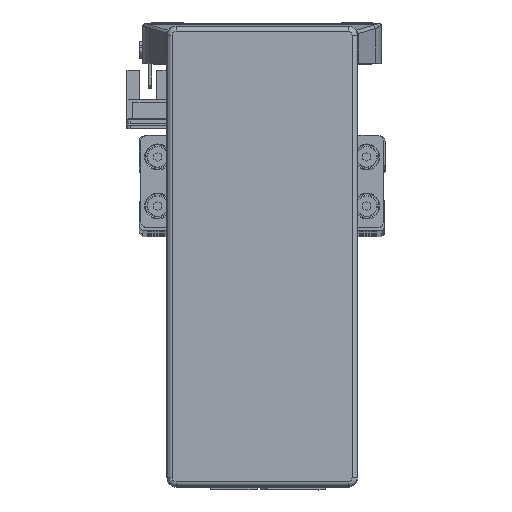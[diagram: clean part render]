
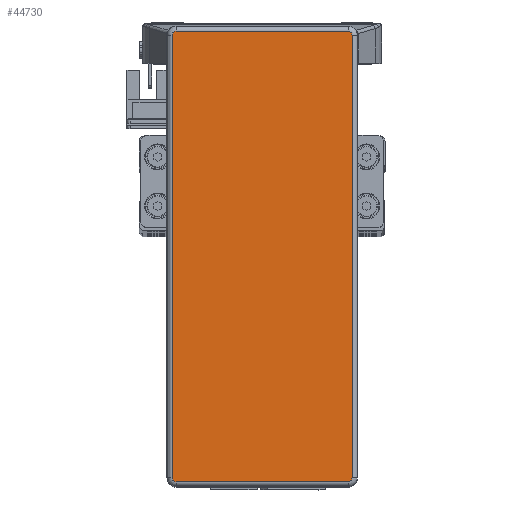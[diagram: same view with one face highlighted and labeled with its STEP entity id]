
A CAD part, top view. The second image highlights one B-rep face of the part: STEP entity #44730.
In plain terms, the highlighted planar face has unit normal (0, 0, 1) as drawn and (0, 0, -1) by its records, which use the part's own axes.
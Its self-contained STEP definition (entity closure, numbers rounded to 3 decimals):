
#449 = VERTEX_POINT ( 'NONE', #28153 ) ;
#459 = VERTEX_POINT ( 'NONE', #28259 ) ;
#461 = VERTEX_POINT ( 'NONE', #28247 ) ;
#474 = VERTEX_POINT ( 'NONE', #28261 ) ;
#476 = VERTEX_POINT ( 'NONE', #28263 ) ;
#492 = VERTEX_POINT ( 'NONE', #28235 ) ;
#500 = VERTEX_POINT ( 'NONE', #28215 ) ;
#502 = VERTEX_POINT ( 'NONE', #28245 ) ;
#1837 = AXIS2_PLACEMENT_3D ( 'NONE', #26757, #26780, #26760 ) ;
#3842 = EDGE_LOOP ( 'NONE', ( #40729, #40994, #40666, #40601, #40623, #40884, #40798, #40738 ) ) ;
#12037 = CARTESIAN_POINT ( 'NONE',  ( -73.295, -27.995, -32.2 ) ) ;
#12072 = DIRECTION ( 'NONE',  ( 0., 1., 0. ) ) ;
#12087 = CARTESIAN_POINT ( 'NONE',  ( 71.995, 29.295, -32.2 ) ) ;
#12109 = DIRECTION ( 'NONE',  ( 1., 0., 0. ) ) ;
#12110 = DIRECTION ( 'NONE',  ( 0., 0., -1. ) ) ;
#12116 = DIRECTION ( 'NONE',  ( 1., 0., 0. ) ) ;
#12120 = CARTESIAN_POINT ( 'NONE',  ( 71.995, -27.995, -32.2 ) ) ;
#12133 = DIRECTION ( 'NONE',  ( 1., 0., 0. ) ) ;
#12134 = CARTESIAN_POINT ( 'NONE',  ( -71.995, -27.995, -32.2 ) ) ;
#12153 = DIRECTION ( 'NONE',  ( 0., 0., -1. ) ) ;
#12161 = DIRECTION ( 'NONE',  ( 0., -1., 0. ) ) ;
#12167 = DIRECTION ( 'NONE',  ( -1., 0., 0. ) ) ;
#12173 = CARTESIAN_POINT ( 'NONE',  ( 71.995, -29.295, -32.2 ) ) ;
#12187 = CARTESIAN_POINT ( 'NONE',  ( 73.295, -27.995, -32.2 ) ) ;
#12201 = CARTESIAN_POINT ( 'NONE',  ( -71.995, 27.995, -32.2 ) ) ;
#12208 = DIRECTION ( 'NONE',  ( 1., 0., 0. ) ) ;
#12217 = DIRECTION ( 'NONE',  ( 0., 0., -1. ) ) ;
#12366 = DIRECTION ( 'NONE',  ( 0., 0., -1. ) ) ;
#12373 = CARTESIAN_POINT ( 'NONE',  ( 71.995, 27.995, -32.2 ) ) ;
#12378 = DIRECTION ( 'NONE',  ( 1., 0., 0. ) ) ;
#13274 = EDGE_CURVE ( 'NONE', #476, #474, #19032, .T. ) ;
#13276 = EDGE_CURVE ( 'NONE', #459, #492, #18996, .T. ) ;
#13286 = EDGE_CURVE ( 'NONE', #461, #449, #19046, .T. ) ;
#13287 = EDGE_CURVE ( 'NONE', #502, #459, #19065, .T. ) ;
#13306 = EDGE_CURVE ( 'NONE', #449, #502, #19066, .T. ) ;
#13311 = EDGE_CURVE ( 'NONE', #500, #461, #19116, .T. ) ;
#13317 = EDGE_CURVE ( 'NONE', #492, #476, #19054, .T. ) ;
#13386 = EDGE_CURVE ( 'NONE', #474, #500, #19207, .T. ) ;
#16207 = FACE_OUTER_BOUND ( 'NONE', #3842, .T. ) ;
#18996 = LINE ( 'NONE', #12037, #19022 ) ;
#19016 = VECTOR ( 'NONE', #12109, 1000. ) ;
#19022 = VECTOR ( 'NONE', #12072, 1000. ) ;
#19032 = LINE ( 'NONE', #12087, #19016 ) ;
#19046 = CIRCLE ( 'NONE', #48291, 1.3 ) ;
#19054 = CIRCLE ( 'NONE', #48249, 1.3 ) ;
#19065 = CIRCLE ( 'NONE', #48247, 1.3 ) ;
#19066 = LINE ( 'NONE', #12173, #19077 ) ;
#19077 = VECTOR ( 'NONE', #12167, 1000. ) ;
#19088 = VECTOR ( 'NONE', #12161, 1000. ) ;
#19116 = LINE ( 'NONE', #12187, #19088 ) ;
#19207 = CIRCLE ( 'NONE', #48359, 1.3 ) ;
#26750 = PLANE ( 'NONE',  #1837 ) ;
#26757 = CARTESIAN_POINT ( 'NONE',  ( 71.995, -27.995, -32.2 ) ) ;
#26760 = DIRECTION ( 'NONE',  ( 1., 0., 0. ) ) ;
#26780 = DIRECTION ( 'NONE',  ( 0., 0., 1. ) ) ;
#28153 = CARTESIAN_POINT ( 'NONE',  ( 71.995, -29.295, -32.2 ) ) ;
#28215 = CARTESIAN_POINT ( 'NONE',  ( 73.295, 27.995, -32.2 ) ) ;
#28235 = CARTESIAN_POINT ( 'NONE',  ( -73.295, 27.995, -32.2 ) ) ;
#28245 = CARTESIAN_POINT ( 'NONE',  ( -71.995, -29.295, -32.2 ) ) ;
#28247 = CARTESIAN_POINT ( 'NONE',  ( 73.295, -27.995, -32.2 ) ) ;
#28259 = CARTESIAN_POINT ( 'NONE',  ( -73.295, -27.995, -32.2 ) ) ;
#28261 = CARTESIAN_POINT ( 'NONE',  ( 71.995, 29.295, -32.2 ) ) ;
#28263 = CARTESIAN_POINT ( 'NONE',  ( -71.995, 29.295, -32.2 ) ) ;
#40601 = ORIENTED_EDGE ( 'NONE', *, *, #13287, .T. ) ;
#40623 = ORIENTED_EDGE ( 'NONE', *, *, #13276, .T. ) ;
#40666 = ORIENTED_EDGE ( 'NONE', *, *, #13306, .T. ) ;
#40729 = ORIENTED_EDGE ( 'NONE', *, *, #13311, .T. ) ;
#40738 = ORIENTED_EDGE ( 'NONE', *, *, #13386, .T. ) ;
#40798 = ORIENTED_EDGE ( 'NONE', *, *, #13274, .T. ) ;
#40884 = ORIENTED_EDGE ( 'NONE', *, *, #13317, .T. ) ;
#40994 = ORIENTED_EDGE ( 'NONE', *, *, #13286, .T. ) ;
#44730 = ADVANCED_FACE ( 'NONE', ( #16207 ), #26750, .F. ) ;
#48247 = AXIS2_PLACEMENT_3D ( 'NONE', #12134, #12110, #12116 ) ;
#48249 = AXIS2_PLACEMENT_3D ( 'NONE', #12201, #12217, #12208 ) ;
#48291 = AXIS2_PLACEMENT_3D ( 'NONE', #12120, #12153, #12133 ) ;
#48359 = AXIS2_PLACEMENT_3D ( 'NONE', #12373, #12366, #12378 ) ;
